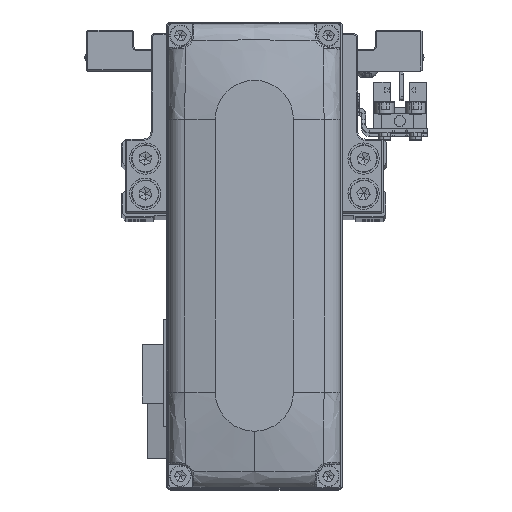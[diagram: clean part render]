
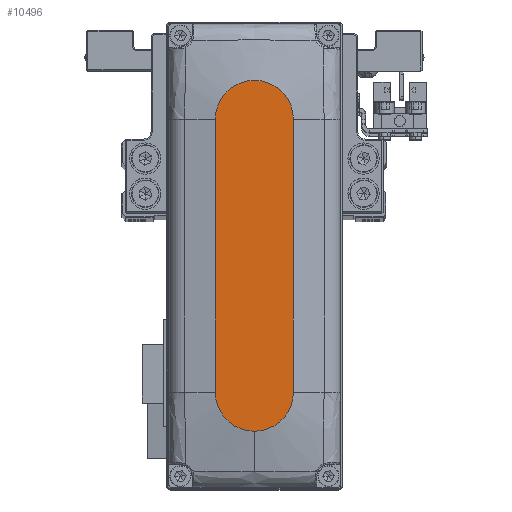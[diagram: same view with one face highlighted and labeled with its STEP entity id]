
A CAD part, top view. The second image highlights one B-rep face of the part: STEP entity #10496.
In plain terms, the highlighted planar face has unit normal (0, 0, 1).
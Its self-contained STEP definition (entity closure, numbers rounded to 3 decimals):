
#169 = CIRCLE ( 'NONE', #22802, 10. ) ;
#1991 = EDGE_CURVE ( 'NONE', #25713, #14231, #9875, .T. ) ;
#2312 = CARTESIAN_POINT ( 'NONE',  ( -35., 10., 28. ) ) ;
#3856 = VERTEX_POINT ( 'NONE', #29541 ) ;
#4761 = ORIENTED_EDGE ( 'NONE', *, *, #1991, .T. ) ;
#5046 = ORIENTED_EDGE ( 'NONE', *, *, #13969, .T. ) ;
#5888 = CARTESIAN_POINT ( 'NONE',  ( 35., 0., 28. ) ) ;
#7688 = CARTESIAN_POINT ( 'NONE',  ( 0., 0., 28. ) ) ;
#7832 = CARTESIAN_POINT ( 'NONE',  ( 35., 10., 28. ) ) ;
#9294 = AXIS2_PLACEMENT_3D ( 'NONE', #12483, #24848, #37207 ) ;
#9467 = CARTESIAN_POINT ( 'NONE',  ( -35., -10., 28. ) ) ;
#9875 = CIRCLE ( 'NONE', #32538, 10. ) ;
#10267 = CARTESIAN_POINT ( 'NONE',  ( -35., 10., 28. ) ) ;
#10496 = ADVANCED_FACE ( 'NONE', ( #23080 ), #35471, .T. ) ;
#10666 = DIRECTION ( 'NONE',  ( 0., 0., 1. ) ) ;
#12483 = CARTESIAN_POINT ( 'NONE',  ( -35., 0., 28. ) ) ;
#13764 = ORIENTED_EDGE ( 'NONE', *, *, #29020, .T. ) ;
#13969 = EDGE_CURVE ( 'NONE', #3856, #26309, #37240, .T. ) ;
#14193 = EDGE_CURVE ( 'NONE', #26309, #25713, #169, .T. ) ;
#14231 = VERTEX_POINT ( 'NONE', #7832 ) ;
#18247 = DIRECTION ( 'NONE',  ( 0., 0., 1. ) ) ;
#20054 = DIRECTION ( 'NONE',  ( 0., 0., 1. ) ) ;
#20213 = VECTOR ( 'NONE', #21826, 1000. ) ;
#20900 = ORIENTED_EDGE ( 'NONE', *, *, #14193, .T. ) ;
#21826 = DIRECTION ( 'NONE',  ( 1., 0., 0. ) ) ;
#22524 = VERTEX_POINT ( 'NONE', #2312 ) ;
#22627 = DIRECTION ( 'NONE',  ( -1., 0., 0. ) ) ;
#22802 = AXIS2_PLACEMENT_3D ( 'NONE', #38431, #10666, #23011 ) ;
#23011 = DIRECTION ( 'NONE',  ( 1., 0., 0. ) ) ;
#23080 = FACE_OUTER_BOUND ( 'NONE', #33419, .T. ) ;
#24070 = ORIENTED_EDGE ( 'NONE', *, *, #25634, .T. ) ;
#24848 = DIRECTION ( 'NONE',  ( 0., 0., 1. ) ) ;
#25634 = EDGE_CURVE ( 'NONE', #14231, #22524, #38029, .T. ) ;
#25713 = VERTEX_POINT ( 'NONE', #26269 ) ;
#26269 = CARTESIAN_POINT ( 'NONE',  ( 45., 0., 28. ) ) ;
#26309 = VERTEX_POINT ( 'NONE', #39784 ) ;
#26764 = CIRCLE ( 'NONE', #9294, 10. ) ;
#28479 = VECTOR ( 'NONE', #22627, 1000. ) ;
#29020 = EDGE_CURVE ( 'NONE', #22524, #3856, #26764, .T. ) ;
#29541 = CARTESIAN_POINT ( 'NONE',  ( -35., -10., 28. ) ) ;
#30642 = DIRECTION ( 'NONE',  ( 1., 0., 0. ) ) ;
#32432 = DIRECTION ( 'NONE',  ( 1., 0., 0. ) ) ;
#32538 = AXIS2_PLACEMENT_3D ( 'NONE', #5888, #18247, #30642 ) ;
#33419 = EDGE_LOOP ( 'NONE', ( #24070, #13764, #5046, #20900, #4761 ) ) ;
#35471 = PLANE ( 'NONE',  #36071 ) ;
#36071 = AXIS2_PLACEMENT_3D ( 'NONE', #7688, #20054, #32432 ) ;
#37207 = DIRECTION ( 'NONE',  ( 1., 0., 0. ) ) ;
#37240 = LINE ( 'NONE', #9467, #20213 ) ;
#38029 = LINE ( 'NONE', #10267, #28479 ) ;
#38431 = CARTESIAN_POINT ( 'NONE',  ( 35., 0., 28. ) ) ;
#39784 = CARTESIAN_POINT ( 'NONE',  ( 35., -10., 28. ) ) ;
